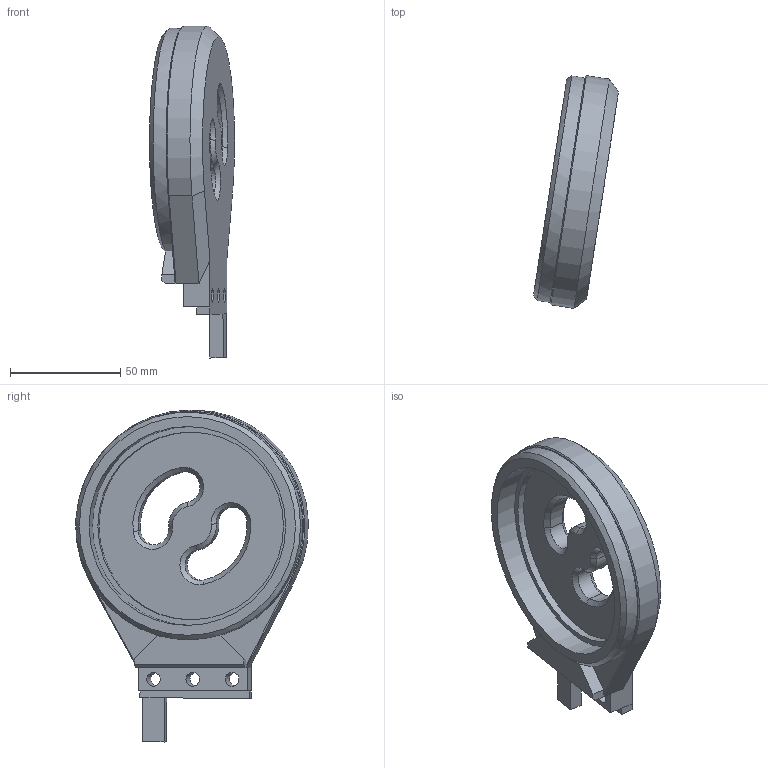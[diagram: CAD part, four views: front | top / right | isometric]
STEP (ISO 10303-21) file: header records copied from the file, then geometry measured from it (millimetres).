
FILE_DESCRIPTION(/* description */ (''),/* implementation_level */ '2;1');
FILE_NAME(/* name */ 'Shoulder Mount.step',/* time_stamp */ '2026-06-03T23:47:26+01:00',/* author */ (''),/* organization */ (''),/* preprocessor_version */ 'ST-DEVELOPER v20.1',/* originating_system */ 'Autodesk Translation Framework v15.8.0.0',/* authorisation */ '');
FILE_SCHEMA (('AUTOMOTIVE_DESIGN { 1 0 10303 214 3 1 1 }'));
Length unit declared in the file: millimetre
Products named in the file (1): Shoulder Mount
Bounding box: 38.49 x 105.34 x 150.26 mm (x, y, z)
Volume: 134559.9 mm3; surface area: 32571.9 mm2
Topology: 1 solids, 1 shells, 66 faces, 155 edges, 93 vertices
Faces by surface type: plane 32, cone 19, cylinder 15
Full cylindrical faces by diameter (mm): 6.2 x3, 85 x1, 90 x1
Entity records: 1915 total; most frequent: DIRECTION 340, CARTESIAN_POINT 315, ORIENTED_EDGE 310, EDGE_CURVE 155, AXIS2_PLACEMENT_3D 118, LINE 104, VECTOR 104, VERTEX_POINT 93
